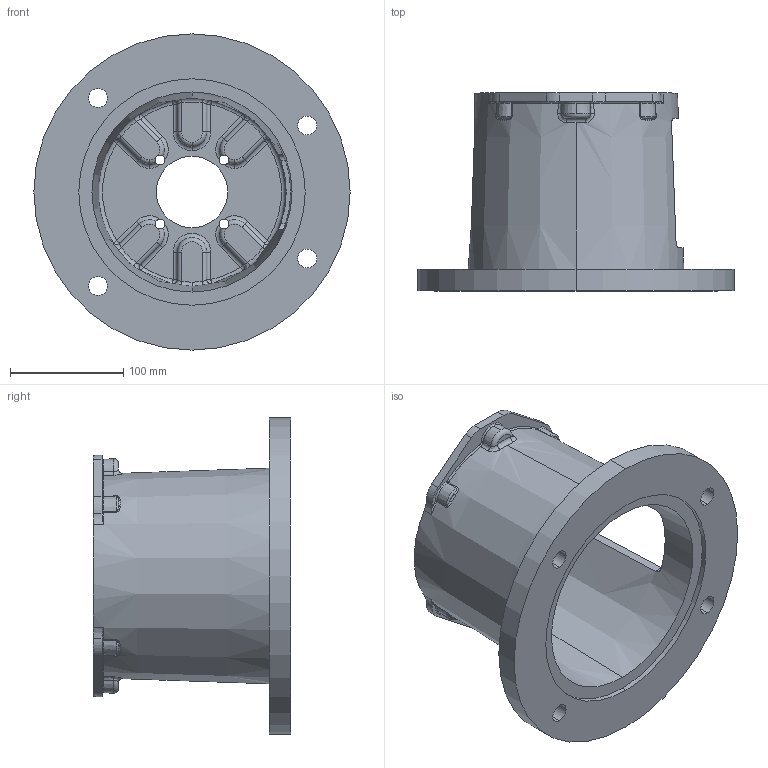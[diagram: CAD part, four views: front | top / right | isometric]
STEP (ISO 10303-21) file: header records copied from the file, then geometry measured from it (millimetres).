
FILE_DESCRIPTION (( 'STEP AP203' ), '1' );
FILE_NAME ('E7876863MS.STEP', '2014-11-04T13:48:54', ( '' ), ( '' ), 'SwSTEP 2.0', 'SolidWorks 2014', '' );
FILE_SCHEMA (( 'CONFIG_CONTROL_DESIGN' ));
Length unit declared in the file: inch
Products named in the file (1): E7876863MS
Bounding box: 279.4 x 174.75 x 279.4 mm (x, y, z)
Volume: 1511710.4 mm3; surface area: 311062.3 mm2
Topology: 1 solids, 1 shells, 344 faces, 878 edges, 523 vertices
Faces by surface type: torus 107, cylinder 82, bspline 64, plane 45, sphere 24, cone 22
Entity records: 13929 total; most frequent: CARTESIAN_POINT 5912, ORIENTED_EDGE 1732, DIRECTION 1690, EDGE_CURVE 866, AXIS2_PLACEMENT_3D 767, VERTEX_POINT 523, CIRCLE 486, EDGE_LOOP 363
